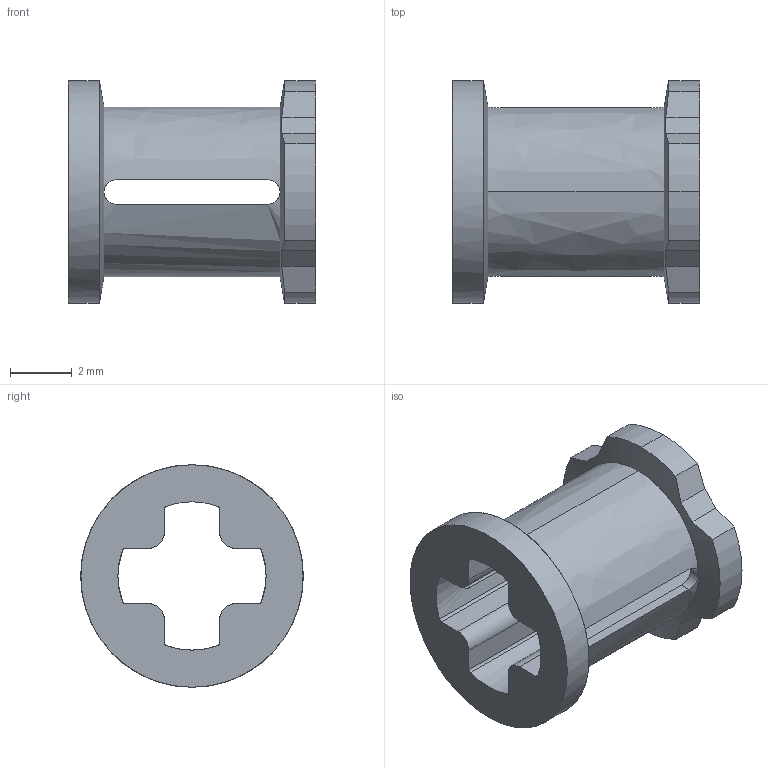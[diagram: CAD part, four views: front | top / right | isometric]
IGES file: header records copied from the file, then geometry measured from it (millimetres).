
Start section: C
Global section: file name: Red_4227155_JCA.iges; native system: By Siemens PLM Incorporated; preprocessor: XPlus GENERIC/IGES 26.1.183; author: Author; organization: Title; date: 20250722.000307; units: millimetre
Bounding box: 8 x 7.2 x 7.2 mm (x, y, z)
Surface area: 352.8 mm2 (no closed solid volume)
Topology: 0 solids, 0 shells, 58 faces, 340 edges, 340 vertices
Faces by surface type: bspline 58
